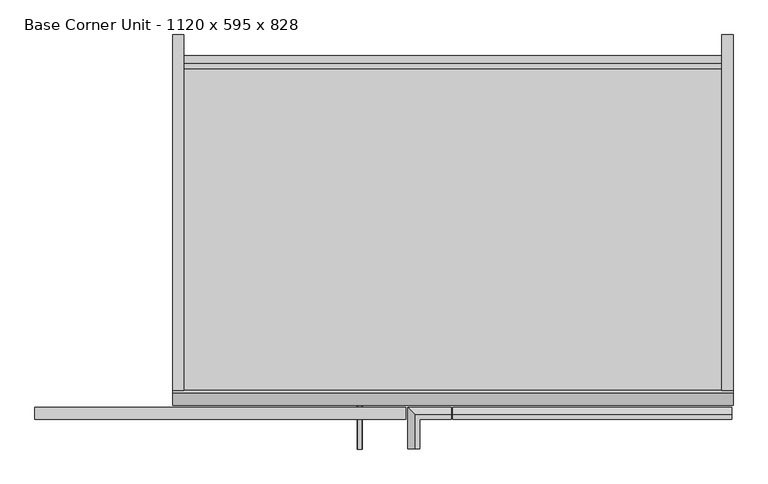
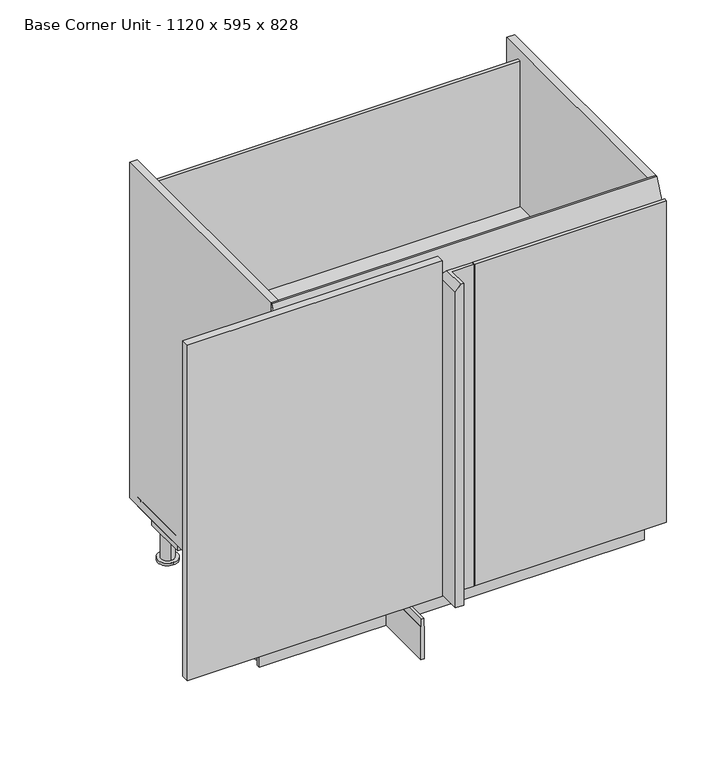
"""IFC4 building model written with IfcOpenShell, lengths in millimetres: furniture geometry, Furniture_Other-Furniture_Molteni&C_Prime_Base-Corner : Base Corner Unit - 1120 x 595 x 828."""

from ifc_helpers import new_model, si_unit, point, frame, frame_2d, origin, place, context, project, spatial, polyline, circle_curve, trimmed, segment, composite_curve, outline, extrude, faceted_brep, source, transform, mapped, element, save
from ifc_brep_helpers import plane_surface, cylinder_surface, advanced_brep


def base_corner_unit_1120_x_595_x_828_48937a91(model_context):
    return source(origin(), model_context, "Body", "SolidModel", [
        extrude(outline(polyline([(0.0, -153.5), (0.0, -145.5), (80.0, -145.5), (80.0, -146.5), (100.0, -146.5), (100.0, -152.5), (80.0, -152.5), (80.0, -153.5), (0.0, -153.5)])), frame((0.0, -367.5, 0.0), z_axis=(0.0, 1.0, 0.0), x_axis=(0.0, 0.0, 1.0)), (0.0, 0.0, 1.0), 140.0),
        extrude(outline(polyline([(431.5, 243.4999806), (431.5, -297.5), (-431.5, -297.5), (-431.5, 243.4999806), (431.5, 243.4999806)])), frame((0.0, 0.0, 521.0), z_axis=(0.0, 0.0, 1.0), x_axis=(1.0, 0.0, 0.0)), (0.0, 0.0, 1.0), 22.0),
        extrude(outline(composite_curve([segment(polyline([(-273.0222513, 928.0), (297.5, 928.0), (297.5, 100.0), (-297.5, 100.0), (-297.5, 878.3669795), (-277.034701, 878.3669795)]), True, "CONTINUOUS"), segment(trimmed(circle_curve(frame_2d((-277.034701, 882.3794292)), 4.0124497), [point((-277.034701, 878.3669795))], [point((-273.0222513, 882.3794292))], True, "CARTESIAN"), True, "CONTINUOUS"), segment(polyline([(-273.0222513, 882.3794292), (-273.0222513, 928.0)]), True, "CONTINUOUS")], self_intersect=False)), frame((-449.5, 0.0, 0.0), z_axis=(1.0, 0.0, 0.0), x_axis=(0.0, 1.0, 0.0)), (0.0, 0.0, 1.0), 18.0),
        extrude(outline(composite_curve([segment(polyline([(-273.0222513, 928.0), (297.5, 928.0), (297.5, 100.0), (-297.5, 100.0), (-297.5, 546.2328146), (-297.5, 728.3662692), (-297.5, 878.3669795), (-277.034701, 878.3669795)]), True, "CONTINUOUS"), segment(trimmed(circle_curve(frame_2d((-277.034701, 882.3794292)), 4.0124497), [point((-277.034701, 878.3669795))], [point((-273.0222513, 882.3794292))], True, "CARTESIAN"), True, "CONTINUOUS"), segment(polyline([(-273.0222513, 882.3794292), (-273.0222513, 928.0)]), True, "CONTINUOUS")], self_intersect=False)), frame((431.5, 0.0, 0.0), z_axis=(1.0, 0.0, 0.0), x_axis=(0.0, 1.0, 0.0)), (0.0, 0.0, 1.0), 18.0),
        advanced_brep(
        [(449.5, -227.5, 80.0), (449.5, -227.5, 0.0), (449.5, -219.5, 0.0), (449.5, -219.5, 80.0), (449.5, -220.5, 80.0), (449.5, -220.5, 100.0), (449.5, -226.5, 100.0), (449.5, -226.5, 80.0), (-449.5, -227.5, 80.0), (-449.5, -226.5, 80.0), (-449.5, -226.5, 100.0), (-449.5, -220.5, 100.0), (-449.5, -220.5, 80.0), (-449.5, -219.5, 80.0), (-449.5, -219.5, 0.0), (-449.5, -227.5, 0.0), (-441.5, -219.5, 80.0), (-441.5, -219.5, 76.0), (-336.9, -219.5, 76.0), (-336.9, -219.5, 80.0), (336.9, -219.5, 80.0), (336.9, -219.5, 76.0), (441.5, -219.5, 76.0), (441.5, -219.5, 80.0), (441.5, -220.2543184, 80.0), (336.9, -220.2543184, 80.0), (-336.9, -220.2543184, 80.0), (-441.5, -220.2543184, 80.0), (441.5, -220.2543184, 100.0), (441.5, -116.0117937, 100.0), (411.5, -116.0117937, 100.0), (336.9, -190.6117937, 100.0), (336.9, -220.2543184, 100.0), (-441.5, -220.2543184, 100.0), (-336.9, -220.2543184, 100.0), (-336.9, -190.6117937, 100.0), (-411.5, -116.0117937, 100.0), (-441.5, -116.0117937, 100.0), (336.9, -190.6117937, 76.0), (411.5, -116.0117937, 76.0), (441.5, -116.0117937, 76.0), (419.5, -210.450213, 76.0), (419.5, -180.450213, 76.0), (-441.5, -116.0117937, 76.0), (-411.5, -116.0117937, 76.0), (-336.9, -190.6117937, 76.0), (-419.5, -210.450213, 76.0), (-419.5, -180.450213, 76.0), (419.5, -172.0406948, 0.0), (419.5, -219.0487988, 0.0), (-419.5, -219.04912, 0.0), (-419.5, -172.041016, 0.0), (-419.5, -210.450213, 6.1757403), (-419.5, -180.450213, 6.1757403), (419.5, -210.450213, 6.1757403), (419.5, -180.450213, 6.1757403), (419.5, -172.0406948, 6.1757403), (419.5, -219.0487988, 6.1757403), (-419.5, -219.04912, 6.1757403), (-419.5, -172.041016, 6.1757403)],
        [
            (0, 1),
            (1, 2),
            (2, 3),
            (3, 4),
            (4, 5),
            (5, 6),
            (6, 7),
            (7, 0),
            (8, 9),
            (9, 10),
            (10, 11),
            (11, 12),
            (12, 13),
            (13, 14),
            (14, 15),
            (15, 8),
            (0, 8),
            (15, 1),
            (14, 2),
            (13, 16),
            (16, 17),
            (17, 18),
            (18, 19),
            (19, 20),
            (20, 21),
            (21, 22),
            (22, 23),
            (23, 3),
            (23, 24),
            (24, 25),
            (25, 20),
            (19, 26),
            (26, 27),
            (27, 16),
            (12, 4),
            (11, 5),
            (10, 6),
            (9, 7),
            (28, 29),
            (29, 30),
            (30, 31),
            (31, 32),
            (32, 28),
            (33, 34),
            (34, 35),
            (35, 36),
            (36, 37),
            (37, 33),
            (38, 39),
            (39, 40),
            (40, 22),
            (21, 38),
            (41, 42, circle_curve(frame((419.5, -195.450213, 76.0), z_axis=(0.0, 0.0, 1.0), x_axis=(1.0, 0.0, 0.0)), 15.0)),
            (42, 41, circle_curve(frame((419.5, -195.450213, 76.0), z_axis=(0.0, 0.0, 1.0), x_axis=(1.0, 0.0, 0.0)), 15.0)),
            (43, 44),
            (44, 45),
            (45, 18),
            (17, 43),
            (46, 47, circle_curve(frame((-419.5, -195.450213, 76.0), z_axis=(0.0, 0.0, 1.0), x_axis=(1.0, 0.0, 0.0)), 15.0)),
            (47, 46, circle_curve(frame((-419.5, -195.450213, 76.0), z_axis=(0.0, 0.0, 1.0), x_axis=(1.0, 0.0, 0.0)), 15.0)),
            (28, 24),
            (40, 29),
            (39, 30),
            (38, 31),
            (25, 32),
            (33, 27),
            (26, 34),
            (45, 35),
            (44, 36),
            (43, 37),
            (48, 49, circle_curve(frame((419.5, -195.5447468, 0.0), z_axis=(0.0, 0.0, -1.0), x_axis=(1.0, 0.0, 0.0)), 23.504052)),
            (49, 48, circle_curve(frame((419.5, -195.5447468, 0.0), z_axis=(0.0, 0.0, -1.0), x_axis=(1.0, 0.0, 0.0)), 23.504052)),
            (50, 51, circle_curve(frame((-419.5, -195.545068, 0.0), z_axis=(0.0, 0.0, -1.0), x_axis=(1.0, 0.0, 0.0)), 23.504052)),
            (51, 50, circle_curve(frame((-419.5, -195.545068, 0.0), z_axis=(0.0, 0.0, -1.0), x_axis=(1.0, 0.0, 0.0)), 23.504052)),
            (46, 52),
            (52, 53, circle_curve(frame((-419.5, -195.450213, 6.1757403), z_axis=(0.0, 0.0, 1.0), x_axis=(1.0, 0.0, 0.0)), 15.0)),
            (53, 47),
            (53, 52, circle_curve(frame((-419.5, -195.450213, 6.1757403), z_axis=(0.0, 0.0, 1.0), x_axis=(1.0, 0.0, 0.0)), 15.0)),
            (41, 54),
            (54, 55, circle_curve(frame((419.5, -195.450213, 6.1757403), z_axis=(0.0, 0.0, 1.0), x_axis=(1.0, 0.0, 0.0)), 15.0)),
            (55, 42),
            (55, 54, circle_curve(frame((419.5, -195.450213, 6.1757403), z_axis=(0.0, 0.0, 1.0), x_axis=(1.0, 0.0, 0.0)), 15.0)),
            (56, 57, circle_curve(frame((419.5, -195.5447468, 6.1757403), z_axis=(0.0, 0.0, 1.0), x_axis=(1.0, 0.0, 0.0)), 23.504052)),
            (57, 56, circle_curve(frame((419.5, -195.5447468, 6.1757403), z_axis=(0.0, 0.0, 1.0), x_axis=(1.0, 0.0, 0.0)), 23.504052)),
            (58, 59, circle_curve(frame((-419.5, -195.545068, 6.1757403), z_axis=(0.0, 0.0, 1.0), x_axis=(1.0, 0.0, 0.0)), 23.504052)),
            (59, 58, circle_curve(frame((-419.5, -195.545068, 6.1757403), z_axis=(0.0, 0.0, 1.0), x_axis=(1.0, 0.0, 0.0)), 23.504052)),
            (56, 48),
            (49, 57),
            (58, 50),
            (51, 59),
        ],
        [
            plane_surface(frame((449.5, -227.5, 0.0), z_axis=(1.0, 0.0, 0.0), x_axis=(0.0, 0.0, -1.0))),
            plane_surface(frame((-449.5, -227.5, 0.0), z_axis=(-1.0, 0.0, 0.0), x_axis=(0.0, 0.0, 1.0))),
            plane_surface(frame((449.5, -227.5, 80.0), z_axis=(0.0, -1.0, 0.0), x_axis=(-1.0, 0.0, 0.0))),
            plane_surface(frame((449.5, -227.5, 0.0), z_axis=(0.0, 0.0, -1.0), x_axis=(-1.0, 0.0, 0.0))),
            plane_surface(frame((449.5, -219.5, 0.0), z_axis=(0.0, 1.0, 0.0), x_axis=(-1.0, 0.0, 0.0))),
            plane_surface(frame((449.5, -219.5, 80.0), z_axis=(0.0, 0.0, 1.0), x_axis=(-1.0, 0.0, 0.0))),
            plane_surface(frame((449.5, -220.5, 80.0), z_axis=(0.0, 1.0, 0.0), x_axis=(-1.0, 0.0, 0.0))),
            plane_surface(frame((449.5, -220.5, 100.0), z_axis=(0.0, 0.0, 1.0), x_axis=(-1.0, 0.0, 0.0))),
            plane_surface(frame((449.5, -226.5, 100.0), z_axis=(0.0, -1.0, 0.0), x_axis=(-1.0, 0.0, 0.0))),
            plane_surface(frame((449.5, -226.5, 80.0), z_axis=(0.0, 0.0, 1.0), x_axis=(-1.0, 0.0, 0.0))),
            plane_surface(frame((-441.5, 116.2642334, 100.0), z_axis=(0.0, 0.0, 1.0), x_axis=(1.0, 0.0, 0.0))),
            plane_surface(frame((-441.5, 116.2642334, 76.0), z_axis=(0.0, 0.0, -1.0), x_axis=(-1.0, 0.0, 0.0))),
            plane_surface(frame((441.5, -220.2543184, 100.0), z_axis=(1.0, 0.0, 0.0), x_axis=(0.0, 0.0, -1.0))),
            plane_surface(frame((441.5, -116.0117937, 100.0), z_axis=(0.0, 1.0, 0.0), x_axis=(0.0, 0.0, -1.0))),
            plane_surface(frame((411.5, -116.0117937, 100.0), z_axis=(-0.7071067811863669, 0.7071067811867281, 0.0), x_axis=(0.0, 0.0, -1.0))),
            plane_surface(frame((336.9, -190.6117937, 100.0), z_axis=(-1.0, 0.0, 0.0), x_axis=(0.0, 0.0, -1.0))),
            plane_surface(frame((336.9, -220.2543184, 100.0), z_axis=(0.0, -1.0, 0.0), x_axis=(0.0, 0.0, -1.0))),
            plane_surface(frame((-441.5, -220.2543184, 100.0), z_axis=(0.0, -1.0, 0.0), x_axis=(0.0, 0.0, -1.0))),
            plane_surface(frame((-336.9, -220.2543184, 100.0), z_axis=(1.0, 0.0, 0.0), x_axis=(0.0, 0.0, -1.0))),
            plane_surface(frame((-336.9, -190.6117937, 100.0), z_axis=(0.7071067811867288, 0.7071067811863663, 0.0), x_axis=(0.0, 0.0, -1.0))),
            plane_surface(frame((-411.5, -116.0117937, 100.0), z_axis=(0.0, 1.0, 0.0), x_axis=(0.0, 0.0, -1.0))),
            plane_surface(frame((-441.5, -116.0117937, 100.0), z_axis=(-1.0, 0.0, 0.0), x_axis=(0.0, 0.0, -1.0))),
            plane_surface(frame((-404.5, 195.450213, 0.0), z_axis=(0.0, 0.0, -1.0), x_axis=(0.0, -1.0, 0.0))),
            cylinder_surface(frame((-419.5, -195.450213, 0.0), z_axis=(0.0, 0.0, 1.0), x_axis=(1.0, 0.0, 0.0)), 15.0),
            cylinder_surface(frame((419.5, -195.450213, 0.0), z_axis=(0.0, 0.0, 1.0), x_axis=(1.0, 0.0, 0.0)), 15.0),
            plane_surface(frame((443.004052, -195.5447468, 6.1757403), z_axis=(0.0, 0.0, 1.0), x_axis=(0.0, 1.0, 0.0))),
            cylinder_surface(frame((419.5, -195.5447468, 0.0), z_axis=(0.0, 0.0, 1.0), x_axis=(1.0, 0.0, 0.0)), 23.504052),
            cylinder_surface(frame((-419.5, -195.545068, 0.0), z_axis=(0.0, 0.0, 1.0), x_axis=(1.0, 0.0, 0.0)), 23.504052),
        ],
        [
            (0, [[1, 2, 3, 4, 5, 6, 7, 8]]),
            (1, [[9, 10, 11, 12, 13, 14, 15, 16]]),
            (2, [[-1, 17, -16, 18]]),
            (3, [[-2, -18, -15, 19]]),
            (4, [[-3, -19, -14, 20, 21, 22, 23, 24, 25, 26, 27, 28]]),
            (5, [[-4, -28, 29, 30, 31, -24, 32, 33, 34, -20, -13, 35]]),
            (6, [[-5, -35, -12, 36]]),
            (7, [[-6, -36, -11, 37]]),
            (8, [[-7, -37, -10, 38]]),
            (9, [[-8, -38, -9, -17]]),
            (10, [[39, 40, 41, 42, 43]]),
            (10, [[44, 45, 46, 47, 48]]),
            (11, [[49, 50, 51, -26, 52], [53, 54]]),
            (11, [[55, 56, 57, -22, 58], [59, 60]]),
            (12, [[-39, 61, -29, -27, -51, 62]]),
            (13, [[-40, -62, -50, 63]]),
            (14, [[-41, -63, -49, 64]]),
            (15, [[-42, -64, -52, -25, -31, 65]]),
            (16, [[-43, -65, -30, -61]]),
            (17, [[-44, 66, -33, 67]]),
            (18, [[-45, -67, -32, -23, -57, 68]]),
            (19, [[-46, -68, -56, 69]]),
            (20, [[-47, -69, -55, 70]]),
            (21, [[-48, -70, -58, -21, -34, -66]]),
            (22, [[71, 72]]),
            (22, [[73, 74]]),
            (23, [[-59, 75, 76, 77]]),
            (23, [[-60, -77, 78, -75]]),
            (24, [[-53, 79, 80, 81]]),
            (24, [[-54, -81, 82, -79]]),
            (25, [[83, 84], [-80, -82]]),
            (25, [[85, 86], [-76, -78]]),
            (26, [[-83, 87, -72, 88]]),
            (26, [[-84, -88, -71, -87]]),
            (27, [[-85, 89, -74, 90]]),
            (27, [[-86, -90, -73, -89]]),
        ],
    ),
        advanced_brep(
        [(-441.5, 116.2642334, 100.0), (-411.5, 116.2642334, 100.0), (-336.9, 190.8642334, 100.0), (-336.9, 220.9077377, 100.0), (-441.5, 220.9077377, 100.0), (-441.5, 116.2642334, 76.0), (-441.5, 220.9077377, 76.0), (-336.9, 220.9077377, 76.0), (-336.9, 190.8642334, 76.0), (-411.5, 116.2642334, 76.0), (-419.5, 180.450213, 76.0), (-419.5, 210.450213, 76.0), (-419.5, 219.004052, 0.0), (-419.5, 171.995948, 0.0), (-419.5, 180.450213, 6.1757403), (-419.5, 210.450213, 6.1757403), (-419.5, 219.004052, 6.1757403), (-419.5, 171.995948, 6.1757403)],
        [
            (0, 1),
            (1, 2),
            (2, 3),
            (3, 4),
            (4, 0),
            (5, 6),
            (6, 7),
            (7, 8),
            (8, 9),
            (9, 5),
            (10, 11, circle_curve(frame((-419.5, 195.450213, 76.0), z_axis=(0.0, 0.0, 1.0), x_axis=(1.0, 0.0, 0.0)), 15.0)),
            (11, 10, circle_curve(frame((-419.5, 195.450213, 76.0), z_axis=(0.0, 0.0, 1.0), x_axis=(1.0, 0.0, 0.0)), 15.0)),
            (0, 5),
            (9, 1),
            (8, 2),
            (7, 3),
            (6, 4),
            (12, 13, circle_curve(frame((-419.5, 195.5, 0.0), z_axis=(0.0, 0.0, -1.0), x_axis=(1.0, 0.0, 0.0)), 23.504052)),
            (13, 12, circle_curve(frame((-419.5, 195.5, 0.0), z_axis=(0.0, 0.0, -1.0), x_axis=(1.0, 0.0, 0.0)), 23.504052)),
            (10, 14),
            (14, 15, circle_curve(frame((-419.5, 195.450213, 6.1757403), z_axis=(0.0, 0.0, 1.0), x_axis=(1.0, 0.0, 0.0)), 15.0)),
            (15, 11),
            (15, 14, circle_curve(frame((-419.5, 195.450213, 6.1757403), z_axis=(0.0, 0.0, 1.0), x_axis=(1.0, 0.0, 0.0)), 15.0)),
            (16, 17, circle_curve(frame((-419.5, 195.5, 6.1757403), z_axis=(0.0, 0.0, 1.0), x_axis=(1.0, 0.0, 0.0)), 23.504052)),
            (17, 16, circle_curve(frame((-419.5, 195.5, 6.1757403), z_axis=(0.0, 0.0, 1.0), x_axis=(1.0, 0.0, 0.0)), 23.504052)),
            (16, 12),
            (13, 17),
        ],
        [
            plane_surface(frame((-441.5, 116.2642334, 100.0), z_axis=(0.0, 0.0, 1.0), x_axis=(1.0, 0.0, 0.0))),
            plane_surface(frame((-441.5, 116.2642334, 76.0), z_axis=(0.0, 0.0, -1.0), x_axis=(-1.0, 0.0, 0.0))),
            plane_surface(frame((-441.5, 116.2642334, 100.0), z_axis=(0.0, -1.0, 0.0), x_axis=(0.0, 0.0, -1.0))),
            plane_surface(frame((-411.5, 116.2642334, 100.0), z_axis=(0.7071067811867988, -0.7071067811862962, 0.0), x_axis=(0.0, 0.0, -1.0))),
            plane_surface(frame((-336.9, 190.8642334, 100.0), z_axis=(1.0, 0.0, 0.0), x_axis=(0.0, 0.0, -1.0))),
            plane_surface(frame((-336.9, 220.9077377, 100.0), z_axis=(0.0, 1.0, 0.0), x_axis=(0.0, 0.0, -1.0))),
            plane_surface(frame((-441.5, 220.9077377, 100.0), z_axis=(-1.0, 0.0, 0.0), x_axis=(0.0, 0.0, -1.0))),
            plane_surface(frame((-404.5, 195.450213, 0.0), z_axis=(0.0, 0.0, -1.0), x_axis=(0.0, -1.0, 0.0))),
            cylinder_surface(frame((-419.5, 195.450213, 0.0), z_axis=(0.0, 0.0, 1.0), x_axis=(1.0, 0.0, 0.0)), 15.0),
            plane_surface(frame((443.004052, -195.5447468, 6.1757403), z_axis=(0.0, 0.0, 1.0), x_axis=(0.0, 1.0, 0.0))),
            cylinder_surface(frame((-419.5, 195.5, 0.0), z_axis=(0.0, 0.0, 1.0), x_axis=(1.0, 0.0, 0.0)), 23.504052),
        ],
        [
            (0, [[1, 2, 3, 4, 5]]),
            (1, [[6, 7, 8, 9, 10], [11, 12]]),
            (2, [[-1, 13, -10, 14]]),
            (3, [[-2, -14, -9, 15]]),
            (4, [[-3, -15, -8, 16]]),
            (5, [[-4, -16, -7, 17]]),
            (6, [[-5, -17, -6, -13]]),
            (7, [[18, 19]]),
            (8, [[-11, 20, 21, 22]]),
            (8, [[-12, -22, 23, -20]]),
            (9, [[24, 25], [-21, -23]]),
            (10, [[-24, 26, -19, 27]]),
            (10, [[-25, -27, -18, -26]]),
        ],
    ),
        advanced_brep(
        [(441.5, 116.2642334, 100.0), (441.5, 220.9077377, 100.0), (336.9, 220.9077377, 100.0), (336.9, 190.8642334, 100.0), (411.5, 116.2642334, 100.0), (441.5, 116.2642334, 76.0), (411.5, 116.2642334, 76.0), (336.9, 190.8642334, 76.0), (336.9, 220.9077377, 76.0), (441.5, 220.9077377, 76.0), (419.5, 180.450213, 76.0), (419.5, 210.450213, 76.0), (419.5, 219.004052, 0.0), (419.5, 171.995948, 0.0), (419.5, 180.450213, 6.1757403), (419.5, 210.450213, 6.1757403), (419.5, 219.004052, 6.1757403), (419.5, 171.995948, 6.1757403)],
        [
            (0, 1),
            (1, 2),
            (2, 3),
            (3, 4),
            (4, 0),
            (5, 6),
            (6, 7),
            (7, 8),
            (8, 9),
            (9, 5),
            (10, 11, circle_curve(frame((419.5, 195.450213, 76.0), z_axis=(0.0, 0.0, 1.0), x_axis=(1.0, 0.0, 0.0)), 15.0)),
            (11, 10, circle_curve(frame((419.5, 195.450213, 76.0), z_axis=(0.0, 0.0, 1.0), x_axis=(1.0, 0.0, 0.0)), 15.0)),
            (0, 5),
            (9, 1),
            (8, 2),
            (7, 3),
            (6, 4),
            (12, 13, circle_curve(frame((419.5, 195.5, 0.0), z_axis=(0.0, 0.0, -1.0), x_axis=(1.0, 0.0, 0.0)), 23.504052)),
            (13, 12, circle_curve(frame((419.5, 195.5, 0.0), z_axis=(0.0, 0.0, -1.0), x_axis=(1.0, 0.0, 0.0)), 23.504052)),
            (10, 14),
            (14, 15, circle_curve(frame((419.5, 195.450213, 6.1757403), z_axis=(0.0, 0.0, 1.0), x_axis=(1.0, 0.0, 0.0)), 15.0)),
            (15, 11),
            (15, 14, circle_curve(frame((419.5, 195.450213, 6.1757403), z_axis=(0.0, 0.0, 1.0), x_axis=(1.0, 0.0, 0.0)), 15.0)),
            (16, 17, circle_curve(frame((419.5, 195.5, 6.1757403), z_axis=(0.0, 0.0, 1.0), x_axis=(1.0, 0.0, 0.0)), 23.504052)),
            (17, 16, circle_curve(frame((419.5, 195.5, 6.1757403), z_axis=(0.0, 0.0, 1.0), x_axis=(1.0, 0.0, 0.0)), 23.504052)),
            (16, 12),
            (13, 17),
        ],
        [
            plane_surface(frame((-441.5, 116.2642334, 100.0), z_axis=(0.0, 0.0, 1.0), x_axis=(1.0, 0.0, 0.0))),
            plane_surface(frame((-441.5, 116.2642334, 76.0), z_axis=(0.0, 0.0, -1.0), x_axis=(-1.0, 0.0, 0.0))),
            plane_surface(frame((441.5, 116.2642334, 100.0), z_axis=(1.0, 0.0, 0.0), x_axis=(0.0, 0.0, -1.0))),
            plane_surface(frame((441.5, 220.9077377, 100.0), z_axis=(0.0, 1.0, 0.0), x_axis=(0.0, 0.0, -1.0))),
            plane_surface(frame((336.9, 220.9077377, 100.0), z_axis=(-1.0, 0.0, 0.0), x_axis=(0.0, 0.0, -1.0))),
            plane_surface(frame((336.9, 190.8642334, 100.0), z_axis=(-0.7071067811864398, -0.7071067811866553, 0.0), x_axis=(0.0, 0.0, -1.0))),
            plane_surface(frame((411.5, 116.2642334, 100.0), z_axis=(0.0, -1.0, 0.0), x_axis=(0.0, 0.0, -1.0))),
            plane_surface(frame((-404.5, 195.450213, 0.0), z_axis=(0.0, 0.0, -1.0), x_axis=(0.0, -1.0, 0.0))),
            cylinder_surface(frame((419.5, 195.450213, 0.0), z_axis=(0.0, 0.0, 1.0), x_axis=(1.0, 0.0, 0.0)), 15.0),
            plane_surface(frame((443.004052, -195.5447468, 6.1757403), z_axis=(0.0, 0.0, 1.0), x_axis=(0.0, 1.0, 0.0))),
            cylinder_surface(frame((419.5, 195.5, 0.0), z_axis=(0.0, 0.0, 1.0), x_axis=(1.0, 0.0, 0.0)), 23.504052),
        ],
        [
            (0, [[1, 2, 3, 4, 5]]),
            (1, [[6, 7, 8, 9, 10], [11, 12]]),
            (2, [[-1, 13, -10, 14]]),
            (3, [[-2, -14, -9, 15]]),
            (4, [[-3, -15, -8, 16]]),
            (5, [[-4, -16, -7, 17]]),
            (6, [[-5, -17, -6, -13]]),
            (7, [[18, 19]]),
            (8, [[-11, 20, 21, 22]]),
            (8, [[-12, -22, 23, -20]]),
            (9, [[24, 25], [-21, -23]]),
            (10, [[-24, 26, -19, 27]]),
            (10, [[-25, -27, -18, -26]]),
        ],
    ),
        faceted_brep([(-436.5, 251.5, 902.7620501), (-436.5, 243.4999806, 902.7620501), (436.5, 243.4999806, 902.7620501), (436.5, 251.5, 902.7620501), (-436.5, 251.5, 122.0), (-436.5, 251.5, 118.0), (-436.5, 243.4999806, 118.0), (-436.5, 243.4999806, 122.0), (436.5, 243.4999806, 122.0), (436.5, 243.4999806, 118.0), (436.5, 251.5, 118.0), (436.5, 251.5, 122.0), (449.5, 243.4999806, 122.0), (449.5, -297.5, 122.0), (449.5, -297.5, 100.0), (449.5, 264.0007224, 100.0), (449.5, 264.0007224, 122.0), (449.5, 251.5, 122.0), (449.5, 251.5, 118.0), (449.5, 243.4999806, 118.0), (-449.5, 243.4999806, 122.0), (-449.5, 243.4999806, 118.0), (-449.5, 251.5, 118.0), (-449.5, 251.5, 122.0), (-449.5, 264.0007224, 122.0), (-449.5, 264.0007224, 100.0), (-449.5, -297.5, 100.0), (-449.5, -297.5, 122.0)], [[[0, 1, 2, 3]], [[1, 0, 4, 5, 6, 7]], [[2, 1, 7, 8]], [[3, 2, 8, 9, 10, 11]], [[0, 3, 11, 4]], [[12, 13, 14, 15, 16, 17, 18, 19]], [[20, 21, 22, 23, 24, 25, 26, 27]], [[13, 12, 8, 7, 20, 27]], [[14, 13, 27, 26]], [[15, 14, 26, 25]], [[16, 15, 25, 24]], [[17, 16, 24, 23, 4, 11]], [[18, 17, 11, 10]], [[23, 22, 5, 4]], [[19, 18, 10, 9]], [[22, 21, 6, 5]], [[12, 19, 9, 8]], [[21, 20, 7, 6]]]),
        extrude(outline(polyline([(-670.5, -319.5), (-670.5, -300.5), (-75.5, -300.5), (-75.5, -319.5), (-670.5, -319.5)])), frame((0.0, 0.0, 100.0), z_axis=(0.0, 0.0, 1.0), x_axis=(1.0, 0.0, 0.0)), (0.0, 0.0, 1.0), 828.0),
        faceted_brep([(-53.5, -367.5, 894.0), (-60.5758162, -367.5, 894.0), (-72.5, -367.5, 878.498561), (-72.5, -367.5, 100.0), (-53.5, -367.5, 100.0), (-53.5, -319.5, 894.0), (-2.5, -319.5, 894.0), (-2.5, -312.4241838, 894.0), (-60.5758162, -312.4241838, 894.0), (-72.5, -300.5, 878.498561), (-72.5, -300.5, 100.0), (-2.5, -300.5, 100.0), (-2.5, -319.5, 100.0), (-53.5, -319.5, 100.0), (-2.5, -300.5, 878.498561)], [[[0, 1, 2, 3, 4]], [[1, 0, 5, 6, 7, 8]], [[2, 1, 8, 9]], [[3, 2, 9, 10]], [[4, 3, 10, 11, 12, 13]], [[0, 4, 13, 5]], [[6, 12, 11, 14, 7]], [[9, 8, 7, 14]], [[10, 9, 14, 11]], [[5, 13, 12, 6]]]),
        extrude(outline(composite_curve([segment(polyline([(-297.5, 880.3416662), (-277.2702375, 928.0), (-273.0222513, 928.0), (-273.0222513, 882.3794292)]), True, "CONTINUOUS"), segment(trimmed(circle_curve(frame_2d((-277.034701, 882.3794292)), 4.0124497), [point((-273.0222513, 882.3794292))], [point((-277.034701, 878.3669795))], False, "CARTESIAN"), True, "CONTINUOUS"), segment(polyline([(-277.034701, 878.3669795), (-297.5, 878.3669795), (-297.5, 880.3416662)]), True, "CONTINUOUS")], self_intersect=False)), frame((-449.5, 0.0, 0.0), z_axis=(1.0, 0.0, 0.0), x_axis=(0.0, 1.0, 0.0)), (0.0, 0.0, 1.0), 899.0),
        extrude(outline(polyline([(-319.5, 100.0), (-319.5, 894.0), (-312.4241838, 894.0), (-300.5, 878.498561), (-300.5, 100.0), (-319.5, 100.0)])), frame((0.0, 0.0, 0.0), z_axis=(1.0, 0.0, 0.0), x_axis=(0.0, 1.0, 0.0)), (0.0, 0.0, 1.0), 447.5),
    ])


if __name__ == "__main__":
    model = new_model("IFC4")
    model_context = context("Model", 3, world=origin())
    ifc_project = project(units=[si_unit("LENGTHUNIT", "METRE", prefix="MILLI")], contexts=[model_context])
    site = spatial("IfcSite", under=ifc_project)
    building = spatial("IfcBuilding", under=site)
    placement = place(None, origin())
    base_corner_unit_1120_x_595_x_828_shape = base_corner_unit_1120_x_595_x_828_48937a91(model_context)
    element("IfcFurniture", 1, ObjectType="Furniture_Other-Furniture_Molteni&C_Prime_Base-Corner : Base Corner Unit - 1120 x 595 x 828", at=placement, inside=building, context=model_context, shape_type="MappedRepresentation", body=[
        mapped(base_corner_unit_1120_x_595_x_828_shape, transform((0.0, 0.0, 0.0), x_axis=(1.0, 0.0, 0.0), y_axis=(0.0, 1.0, 0.0), z_axis=(0.0, 0.0, 1.0))),
    ])
    save(model, "model.ifc")
